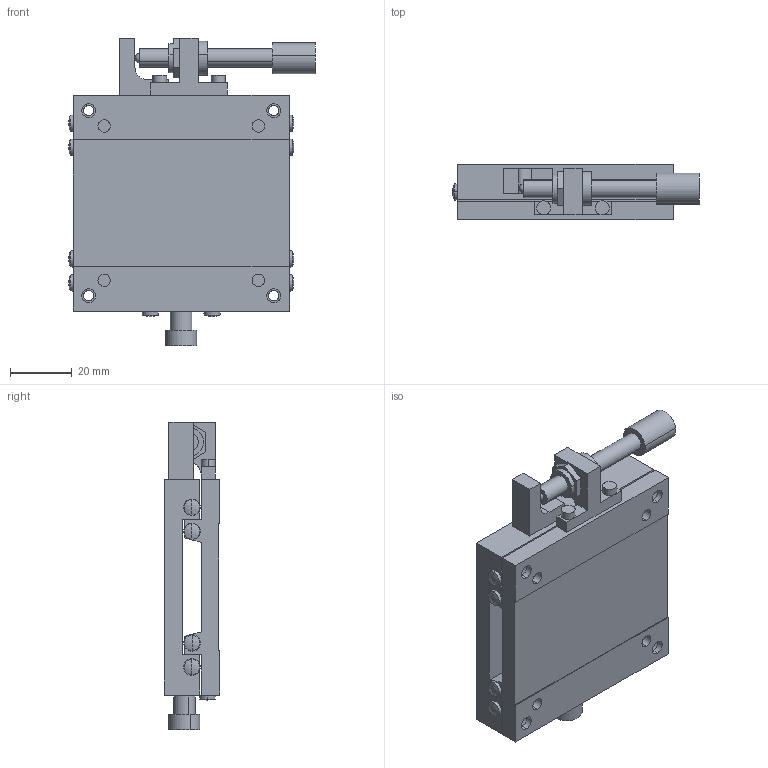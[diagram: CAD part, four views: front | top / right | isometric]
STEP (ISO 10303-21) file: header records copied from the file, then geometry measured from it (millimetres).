
FILE_DESCRIPTION (( 'STEP AP214' ), '1' );
FILE_NAME ('LS‐7041‐S6.STEP', '2007-08-27T09:52:32', ( '' ), ( '' ), 'SwSTEP 2.0', 'SolidWorks 2006303', '' );
FILE_SCHEMA (( 'AUTOMOTIVE_DESIGN' ));
Length unit declared in the file: millimetre
Products named in the file (3): LS70S600－2_ﾃﾞﾌｫﾙﾄ; LS‐7041‐S6; LS70S600－1_ﾃﾞﾌｫﾙﾄ
Assembly tree (2 placements, depth 2):
  LS‐7041‐S6
    LS70S600－1_ﾃﾞﾌｫﾙﾄ
    LS70S600－2_ﾃﾞﾌｫﾙﾄ
Bounding box: 80 x 18 x 99.8 mm (x, y, z)
Volume: 77984.7 mm3; surface area: 31990 mm2
Topology: 3 solids, 3 shells, 210 faces, 525 edges, 337 vertices
Faces by surface type: plane 93, cylinder 75, sphere 22, cone 20
Entity records: 6446 total; most frequent: DIRECTION 1191, CARTESIAN_POINT 1071, ORIENTED_EDGE 1042, EDGE_CURVE 521, AXIS2_PLACEMENT_3D 455, VERTEX_POINT 335, VECTOR 281, LINE 281
